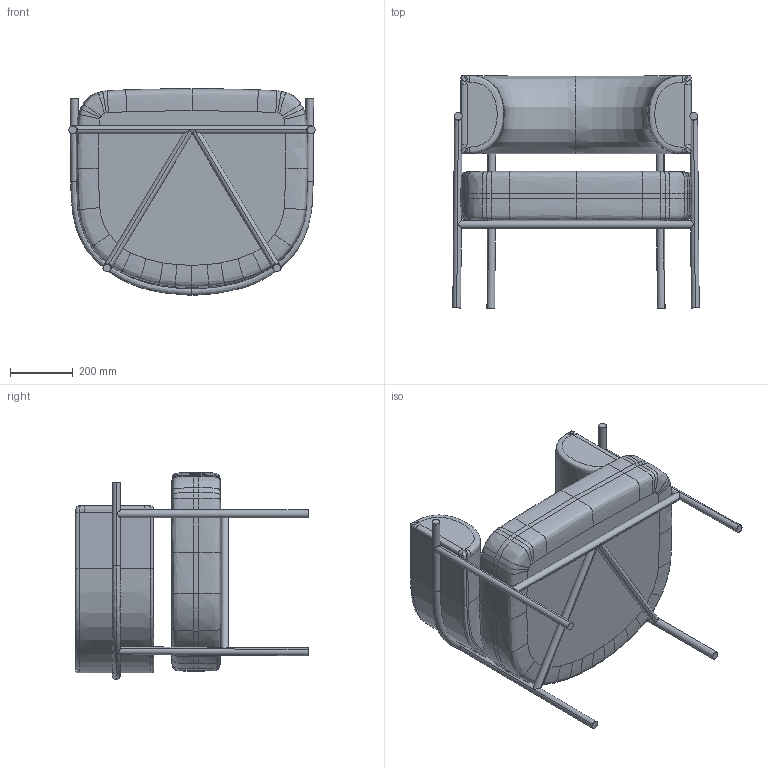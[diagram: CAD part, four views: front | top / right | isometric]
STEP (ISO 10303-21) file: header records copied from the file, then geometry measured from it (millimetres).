
FILE_DESCRIPTION (( 'STEP AP203' ), '1' );
FILE_NAME ('Bumble Bee.STEP', '2025-03-20T14:37:09', ( '' ), ( '' ), 'SwSTEP 2.0', 'SolidWorks 2020', '' );
FILE_SCHEMA (( 'CONFIG_CONTROL_DESIGN' ));
Length unit declared in the file: millimetre
Products named in the file (9): prodbumble bee_underrede delar_Tv„rstag fram; prodbumble bee_underrede delar_Tv„rstag v„nster; Bumble Bee; prodBUMBLE BEE underrede; prodbumble bee_underrede delar_Tv„rstag h”ger; prodbumble bee_underrede delar_Rygg; prod2065 - bumble bee_rygg polyeter - r2_F”r montering i CAD; prodBUMBLE BEE plywood_1280FS - Sits; prodbumble bee_underrede delar_Ben
Assembly tree (11 placements, depth 3):
  Bumble Bee
    prodBUMBLE BEE underrede
      prodbumble bee_underrede delar_Rygg
      prodbumble bee_underrede delar_Ben  x4
      prodbumble bee_underrede delar_Tv„rstag fram
      prodbumble bee_underrede delar_Tv„rstag v„nster
      prodbumble bee_underrede delar_Tv„rstag h”ger
    prodBUMBLE BEE plywood_1280FS - Sits
    prod2065 - bumble bee_rygg polyeter - r2_F”r montering i CAD
Bounding box: 786.69 x 741.59 x 660.6 mm (x, y, z)
Volume: 106591423.3 mm3; surface area: 2590088.2 mm2
Topology: 10 solids, 10 shells, 182 faces, 386 edges, 224 vertices
Faces by surface type: bspline 102, cylinder 58, plane 22
Entity records: 21198 total; most frequent: CARTESIAN_POINT 17575, ORIENTED_EDGE 736, EDGE_CURVE 368, DIRECTION 246, B_SPLINE_CURVE_WITH_KNOTS 227, VERTEX_POINT 212, FACE_OUTER_BOUND 170, EDGE_LOOP 170
